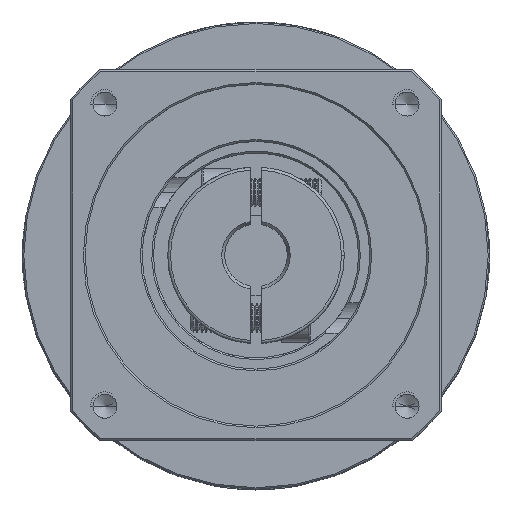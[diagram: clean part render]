
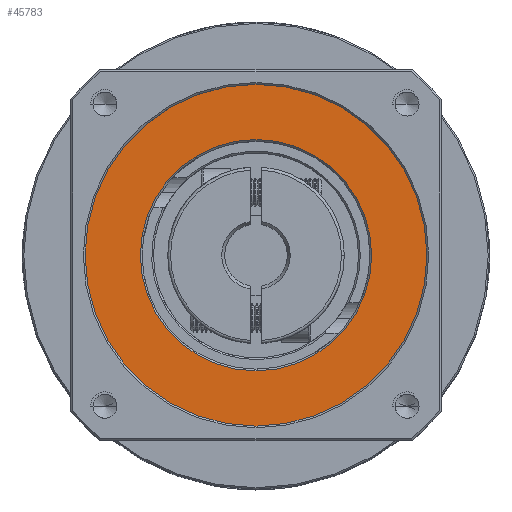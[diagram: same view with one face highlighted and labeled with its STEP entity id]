
A CAD part, top view. The second image highlights one B-rep face of the part: STEP entity #45783.
In plain terms, the highlighted planar face has unit normal (0, 0, 1).
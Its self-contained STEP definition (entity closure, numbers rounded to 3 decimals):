
#1092 = DIRECTION ( 'NONE',  ( 0., 0., 1. ) ) ;
#5871 = DIRECTION ( 'NONE',  ( 0., 0., 1. ) ) ;
#14340 = AXIS2_PLACEMENT_3D ( 'NONE', #27114, #94278, #36794 ) ;
#15916 = CIRCLE ( 'NONE', #83751, 30. ) ;
#16962 = ORIENTED_EDGE ( 'NONE', *, *, #27569, .T. ) ;
#19217 = FACE_OUTER_BOUND ( 'NONE', #86730, .T. ) ;
#20673 = DIRECTION ( 'NONE',  ( 0., 0., -1. ) ) ;
#21708 = AXIS2_PLACEMENT_3D ( 'NONE', #58745, #1092, #68465 ) ;
#22342 = ORIENTED_EDGE ( 'NONE', *, *, #119374, .T. ) ;
#24005 = CARTESIAN_POINT ( 'NONE',  ( -65.841, 24.936, 5.575 ) ) ;
#25578 = CIRCLE ( 'NONE', #34749, 20.3 ) ;
#26174 = VERTEX_POINT ( 'NONE', #74419 ) ;
#27114 = CARTESIAN_POINT ( 'NONE',  ( -65.841, 24.936, 5.575 ) ) ;
#27569 = EDGE_CURVE ( 'NONE', #123236, #26174, #102459, .T. ) ;
#31613 = CARTESIAN_POINT ( 'NONE',  ( -45.541, 24.936, 5.575 ) ) ;
#33744 = DIRECTION ( 'NONE',  ( 1., 0., 0. ) ) ;
#34030 = CARTESIAN_POINT ( 'NONE',  ( -86.141, 24.936, 5.575 ) ) ;
#34749 = AXIS2_PLACEMENT_3D ( 'NONE', #24005, #91245, #33744 ) ;
#36794 = DIRECTION ( 'NONE',  ( 1., 0., 0. ) ) ;
#44831 = FACE_BOUND ( 'NONE', #52369, .T. ) ;
#45783 = ADVANCED_FACE ( 'NONE', ( #44831, #19217 ), #113245, .T. ) ;
#52310 = ORIENTED_EDGE ( 'NONE', *, *, #94700, .T. ) ;
#52369 = EDGE_LOOP ( 'NONE', ( #57883, #52310 ) ) ;
#57883 = ORIENTED_EDGE ( 'NONE', *, *, #94977, .T. ) ;
#58745 = CARTESIAN_POINT ( 'NONE',  ( -65.841, 24.936, 5.575 ) ) ;
#63273 = CIRCLE ( 'NONE', #111191, 20.3 ) ;
#63541 = CARTESIAN_POINT ( 'NONE',  ( -65.841, 24.936, 5.575 ) ) ;
#68465 = DIRECTION ( 'NONE',  ( 1., 0., 0. ) ) ;
#73239 = DIRECTION ( 'NONE',  ( 1., 0., 0. ) ) ;
#74419 = CARTESIAN_POINT ( 'NONE',  ( -95.841, 24.936, 5.575 ) ) ;
#78257 = CARTESIAN_POINT ( 'NONE',  ( -65.841, 24.936, 5.575 ) ) ;
#83751 = AXIS2_PLACEMENT_3D ( 'NONE', #63541, #5871, #73239 ) ;
#86730 = EDGE_LOOP ( 'NONE', ( #16962, #22342 ) ) ;
#89557 = DIRECTION ( 'NONE',  ( 1., 0., 0. ) ) ;
#91245 = DIRECTION ( 'NONE',  ( 0., 0., -1. ) ) ;
#93585 = VERTEX_POINT ( 'NONE', #34030 ) ;
#94278 = DIRECTION ( 'NONE',  ( 0., 0., 1. ) ) ;
#94700 = EDGE_CURVE ( 'NONE', #93585, #111383, #25578, .T. ) ;
#94977 = EDGE_CURVE ( 'NONE', #111383, #93585, #63273, .T. ) ;
#100229 = CARTESIAN_POINT ( 'NONE',  ( -35.841, 24.936, 5.575 ) ) ;
#102459 = CIRCLE ( 'NONE', #21708, 30. ) ;
#111191 = AXIS2_PLACEMENT_3D ( 'NONE', #78257, #20673, #89557 ) ;
#111383 = VERTEX_POINT ( 'NONE', #31613 ) ;
#113245 = PLANE ( 'NONE',  #14340 ) ;
#119374 = EDGE_CURVE ( 'NONE', #26174, #123236, #15916, .T. ) ;
#123236 = VERTEX_POINT ( 'NONE', #100229 ) ;
